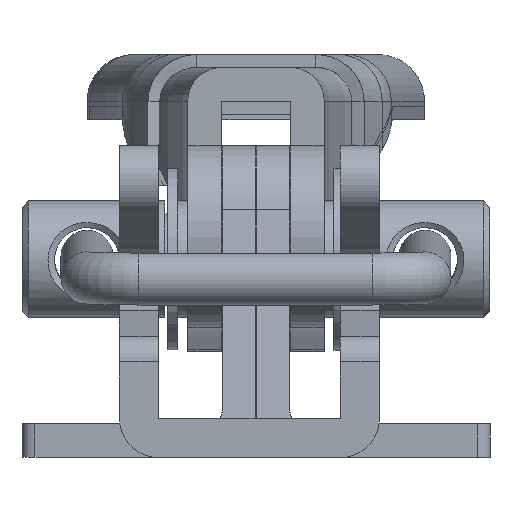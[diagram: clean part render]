
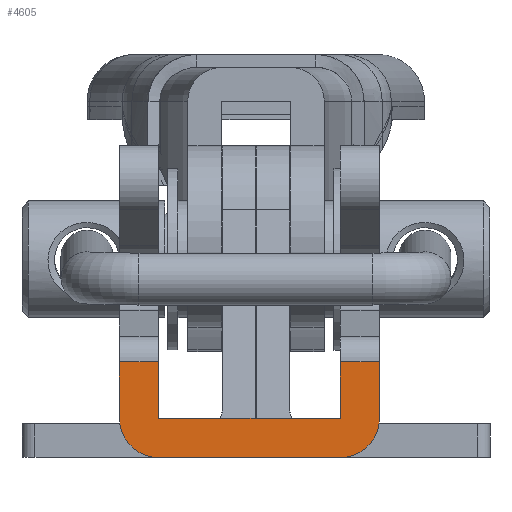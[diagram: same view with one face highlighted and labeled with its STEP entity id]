
A CAD part, left-side view. The second image highlights one B-rep face of the part: STEP entity #4605.
In plain terms, the highlighted planar face has unit normal (-1, 0, 0) as drawn and (1, 0, 0) by its records, which use the part's own axes.
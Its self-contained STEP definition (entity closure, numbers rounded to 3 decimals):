
#204=PLANE('',#5000);
#344=CIRCLE('',#4985,3.);
#350=CIRCLE('',#4994,3.);
#819=FACE_OUTER_BOUND('',#1143,.T.);
#1143=EDGE_LOOP('',(#3547,#3548,#3549,#3550,#3551,#3552,#3553,#3554,#3555,
#3556));
#1513=LINE('',#7885,#1796);
#1523=LINE('',#7910,#1806);
#1527=LINE('',#7926,#1810);
#1528=LINE('',#7928,#1811);
#1529=LINE('',#7930,#1812);
#1530=LINE('',#7932,#1813);
#1531=LINE('',#7933,#1814);
#1532=LINE('',#7934,#1815);
#1796=VECTOR('',#5897,4.36);
#1806=VECTOR('',#5917,4.36);
#1810=VECTOR('',#5931,3.);
#1811=VECTOR('',#5932,4.36);
#1812=VECTOR('',#5933,14.);
#1813=VECTOR('',#5934,4.36);
#1814=VECTOR('',#5935,3.);
#1815=VECTOR('',#5936,14.);
#2119=VERTEX_POINT('',#7863);
#2120=VERTEX_POINT('',#7865);
#2128=VERTEX_POINT('',#7883);
#2136=VERTEX_POINT('',#7903);
#2137=VERTEX_POINT('',#7904);
#2138=VERTEX_POINT('',#7909);
#2145=VERTEX_POINT('',#7925);
#2146=VERTEX_POINT('',#7927);
#2147=VERTEX_POINT('',#7929);
#2148=VERTEX_POINT('',#7931);
#2626=EDGE_CURVE('',#2119,#2120,#344,.T.);
#2636=EDGE_CURVE('',#2128,#2119,#1513,.T.);
#2645=EDGE_CURVE('',#2136,#2137,#350,.T.);
#2648=EDGE_CURVE('',#2137,#2138,#1523,.T.);
#2656=EDGE_CURVE('',#2145,#2128,#1527,.T.);
#2657=EDGE_CURVE('',#2145,#2146,#1528,.T.);
#2658=EDGE_CURVE('',#2146,#2147,#1529,.T.);
#2659=EDGE_CURVE('',#2147,#2148,#1530,.T.);
#2660=EDGE_CURVE('',#2138,#2148,#1531,.T.);
#2661=EDGE_CURVE('',#2120,#2136,#1532,.T.);
#3547=ORIENTED_EDGE('',*,*,#2626,.F.);
#3548=ORIENTED_EDGE('',*,*,#2636,.F.);
#3549=ORIENTED_EDGE('',*,*,#2656,.F.);
#3550=ORIENTED_EDGE('',*,*,#2657,.T.);
#3551=ORIENTED_EDGE('',*,*,#2658,.T.);
#3552=ORIENTED_EDGE('',*,*,#2659,.T.);
#3553=ORIENTED_EDGE('',*,*,#2660,.F.);
#3554=ORIENTED_EDGE('',*,*,#2648,.F.);
#3555=ORIENTED_EDGE('',*,*,#2645,.F.);
#3556=ORIENTED_EDGE('',*,*,#2661,.F.);
#4605=ADVANCED_FACE('',(#819),#204,.T.);
#4985=AXIS2_PLACEMENT_3D('',#7866,#5880,#5881);
#4994=AXIS2_PLACEMENT_3D('',#7905,#5911,#5912);
#5000=AXIS2_PLACEMENT_3D('',#7924,#5929,#5930);
#5880=DIRECTION('center_axis',(-1.,0.,0.));
#5881=DIRECTION('ref_axis',(0.,-0.707,-0.707));
#5897=DIRECTION('',(0.,-1.,0.));
#5911=DIRECTION('center_axis',(-1.,0.,0.));
#5912=DIRECTION('ref_axis',(0.,-0.707,0.707));
#5917=DIRECTION('',(0.,1.,0.));
#5929=DIRECTION('center_axis',(1.,0.,0.));
#5930=DIRECTION('ref_axis',(0.,1.,0.));
#5931=DIRECTION('',(0.,0.,-1.));
#5932=DIRECTION('',(0.,-1.,0.));
#5933=DIRECTION('',(0.,0.,1.));
#5934=DIRECTION('',(0.,1.,0.));
#5935=DIRECTION('',(0.,0.,-1.));
#5936=DIRECTION('',(0.,0.,1.));
#7863=CARTESIAN_POINT('',(25.,3.,-10.));
#7865=CARTESIAN_POINT('',(25.,0.,-7.));
#7866=CARTESIAN_POINT('Origin',(25.,3.,-7.));
#7883=CARTESIAN_POINT('',(25.,7.36,-10.));
#7885=CARTESIAN_POINT('',(25.,0.,-10.));
#7903=CARTESIAN_POINT('',(25.,0.,7.));
#7904=CARTESIAN_POINT('',(25.,3.,10.));
#7905=CARTESIAN_POINT('Origin',(25.,3.,7.));
#7909=CARTESIAN_POINT('',(25.,7.36,10.));
#7910=CARTESIAN_POINT('',(25.,0.,10.));
#7924=CARTESIAN_POINT('Origin',(25.,0.,0.));
#7925=CARTESIAN_POINT('',(25.,7.36,-7.));
#7926=CARTESIAN_POINT('',(25.,7.36,5.));
#7927=CARTESIAN_POINT('',(25.,3.,-7.));
#7928=CARTESIAN_POINT('',(25.,6.,-7.));
#7929=CARTESIAN_POINT('',(25.,3.,7.));
#7930=CARTESIAN_POINT('',(25.,3.,0.));
#7931=CARTESIAN_POINT('',(25.,7.36,7.));
#7932=CARTESIAN_POINT('',(25.,6.,7.));
#7933=CARTESIAN_POINT('',(25.,7.36,5.));
#7934=CARTESIAN_POINT('',(25.,0.,0.));
